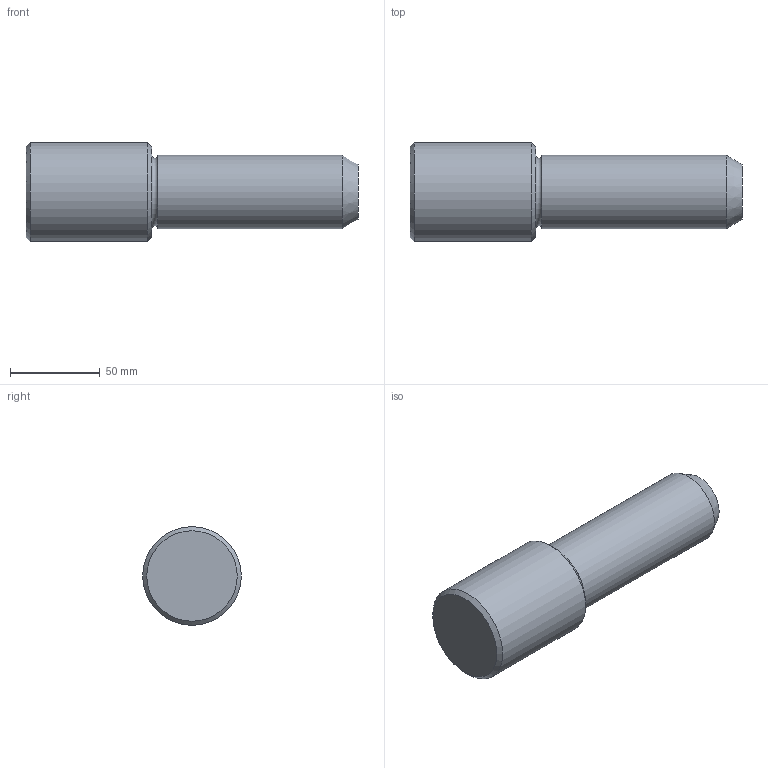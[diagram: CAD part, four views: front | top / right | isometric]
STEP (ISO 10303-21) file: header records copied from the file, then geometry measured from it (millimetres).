
FILE_DESCRIPTION(/* description */ ('Impex Ready, www.impex-ready.pl'),/* implementation_level */ '2;1');
FILE_NAME(/* name */ 'C:\Users\VIKKY\Nextcloud\SM\projekt 10 - części na stronę internetową\Pliki_3D_new\286 Słupy C3\286 C3_STEP\C341185.ipt.step',/* time_stamp */ '2021-12-21T12:04:46+01:00',/* author */ ('SM'),/* organization */ (''),/* preprocessor_version */ 'ST-DEVELOPER v18.1',/* originating_system */ 'Autodesk Inventor 2021',/* authorisation */ '');
FILE_SCHEMA (('AUTOMOTIVE_DESIGN { 1 0 10303 214 3 1 1 }'));
Length unit declared in the file: millimetre
Products named in the file (1): C341185
Bounding box: 185 x 55 x 55 mm (x, y, z)
Volume: 313952.4 mm3; surface area: 30831.4 mm2
Topology: 1 solids, 1 shells, 9 faces, 18 edges, 12 vertices
Faces by surface type: cone 3, plane 3, cylinder 2, torus 1
Full cylindrical faces by diameter (mm): 41 x1, 55 x1
Entity records: 313 total; most frequent: DIRECTION 51, CARTESIAN_POINT 40, ORIENTED_EDGE 36, AXIS2_PLACEMENT_3D 23, EDGE_CURVE 18, CIRCLE 13, VERTEX_POINT 12, EDGE_LOOP 10
